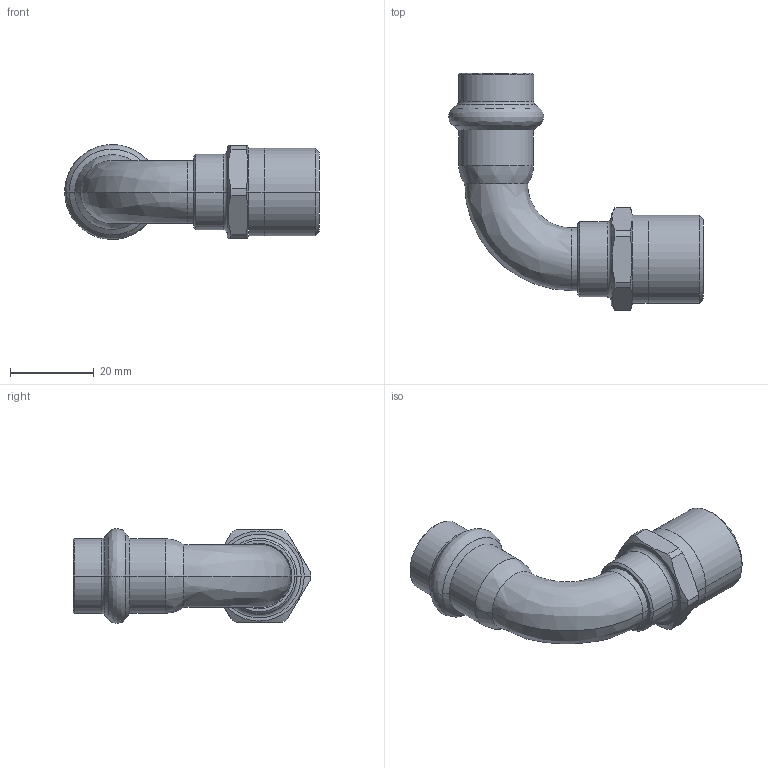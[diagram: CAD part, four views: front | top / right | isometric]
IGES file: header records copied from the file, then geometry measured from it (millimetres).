
Start section: Elysium IGES Interface
Global section: file name: C:\3d modellen sudo\C-Pr VP\SP8092GV\8092GVW1512.igs; native system: CoCreate Modeling 17.00A  17-Jun-2010; preprocessor: CoCreate IGES_3D V2.2; author: Unknown; organization: Unknown; date: 20130305.112057; units: millimetre
Bounding box: 60.84 x 56.73 x 22.67 mm (x, y, z)
Volume: 9461.9 mm3; surface area: 9383.7 mm2
Topology: 1 solids, 1 shells, 83 faces, 180 edges, 104 vertices
Faces by surface type: bspline 83
